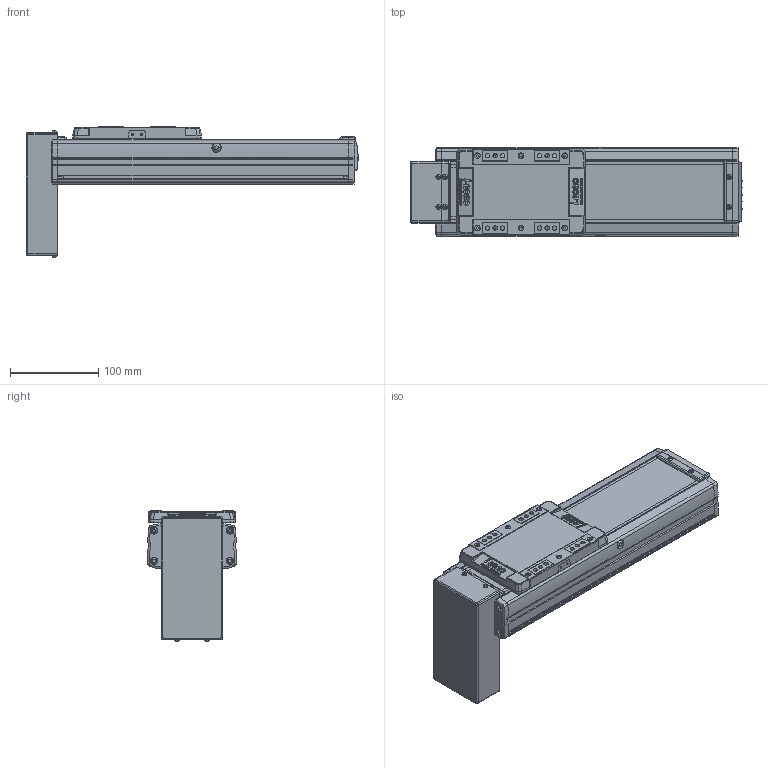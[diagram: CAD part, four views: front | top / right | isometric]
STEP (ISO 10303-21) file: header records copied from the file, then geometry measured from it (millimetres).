
FILE_DESCRIPTION(('STEP AP214'),'1');
FILE_NAME('Z:/Web/3D/SAN100/SAN100 양산용 (STEP)/SAN100ㅁㅁ-150PB.stp','2013-04-24T07:54:17',(' '),(' '),'Spatial InterOp 3D',' ',' ');
FILE_SCHEMA(('automotive_design'));
Length unit declared in the file: millimetre
Products named in the file (35): SUS COVER; SFX-SAN100; RRCV-SAN100; 스크루 : Round - M4.0 x 10.0; M3.0 x 6.0; 스크루 : Round - M3.0 x 6.0; FRBL-SAN100; SLBL-SAN100; SLCV-SAN100; 스크루 : Countersunk - M3.0 x 6.0; BASE; 스크루 : Round - M5.0 x 6.0; BTCV-SAN100; FRCV-SAN100
Bounding box: 376.5 x 100 x 148.36 mm (x, y, z)
Volume: 1396658.7 mm3; surface area: 330173.1 mm2
Topology: 35 solids, 36 shells, 1924 faces, 4992 edges, 3217 vertices
Faces by surface type: plane 981, cylinder 683, cone 170, sphere 48, torus 30, bspline 12
Entity records: 75408 total; most frequent: CARTESIAN_POINT 11046, DIRECTION 10589, ORIENTED_EDGE 9844, EDGE_CURVE 4922, AXIS2_PLACEMENT_3D 3789, VERTEX_POINT 3217, LINE 3011, VECTOR 3011
